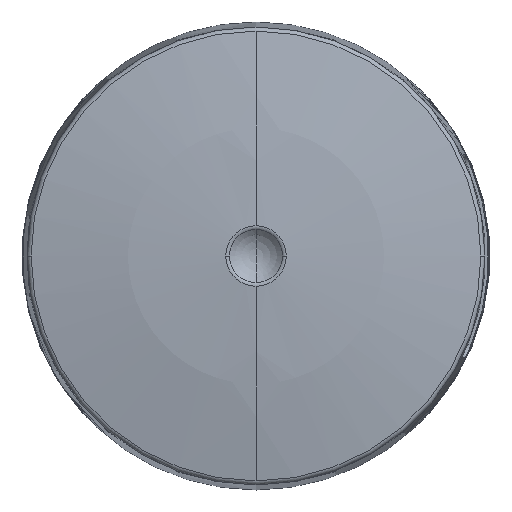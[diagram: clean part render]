
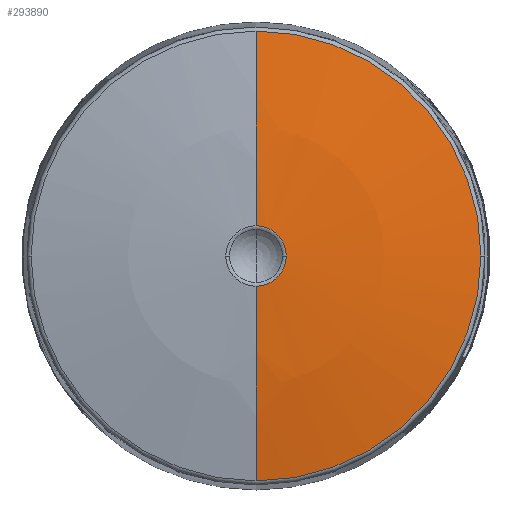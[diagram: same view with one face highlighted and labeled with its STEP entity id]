
A CAD part, left-side view. The second image highlights one B-rep face of the part: STEP entity #293890.
In plain terms, the highlighted spherical face has radius 45.951 mm.
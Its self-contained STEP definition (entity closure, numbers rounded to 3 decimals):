
#293430=CARTESIAN_POINT('',(82.898,47.8,0.))
;
#293440=DIRECTION('',(1.,0.,0.));
#293450=DIRECTION('',(0.,0.,1.));
#293460=AXIS2_PLACEMENT_3D('',#293430,#293440,#293450);
#293470=SPHERICAL_SURFACE('',#293460,45.951);
#293480=CARTESIAN_POINT('',(82.898,47.8,0.))
;
#293490=DIRECTION('',(0.,-1.,0.));
#293500=DIRECTION('',(-1.,0.,0.));
#293510=AXIS2_PLACEMENT_3D('',#293480,#293490,#293500);
#293520=CIRCLE('',#293510,45.951);
#293530=CARTESIAN_POINT('',(37.814,47.8,8.89));
#293540=VERTEX_POINT('',#293530);
#293550=CARTESIAN_POINT('',(36.962,47.8,1.194));
#293560=VERTEX_POINT('',#293550);
#293570=EDGE_CURVE('',#293540,#293560,#293520,.T.);
#293580=ORIENTED_EDGE('',*,*,#293570,.F.);
#293590=CARTESIAN_POINT('',(36.962,47.8,0.))
;
#293600=DIRECTION('',(1.,0.,0.));
#293610=DIRECTION('',(0.,-1.,0.));
#293620=AXIS2_PLACEMENT_3D('',#293590,#293600,#293610);
#293630=CIRCLE('',#293620,1.194);
#293640=CARTESIAN_POINT('',(36.962,48.994,
0.));
#293650=VERTEX_POINT('',#293640);
#293660=EDGE_CURVE('',#293650,#293560,#293630,.T.);
#293670=ORIENTED_EDGE('',*,*,#293660,.T.);
#293680=CARTESIAN_POINT('',(36.962,47.8,-1.194));
#293690=VERTEX_POINT('',#293680);
#293700=EDGE_CURVE('',#293690,#293650,#293630,.T.);
#293710=ORIENTED_EDGE('',*,*,#293700,.T.);
#293720=CARTESIAN_POINT('',(37.814,47.8,-8.89));
#293730=VERTEX_POINT('',#293720);
#293740=EDGE_CURVE('',#293690,#293730,#293520,.T.);
#293750=ORIENTED_EDGE('',*,*,#293740,.F.);
#293760=CARTESIAN_POINT('',(37.814,47.8,0.))
;
#293770=DIRECTION('',(1.,0.,0.));
#293780=DIRECTION('',(0.,-1.,0.));
#293790=AXIS2_PLACEMENT_3D('',#293760,#293770,#293780);
#293800=CIRCLE('',#293790,8.89);
#293810=CARTESIAN_POINT('',(37.814,56.69,
0.));
#293820=VERTEX_POINT('',#293810);
#293830=EDGE_CURVE('',#293730,#293820,#293800,.T.);
#293840=ORIENTED_EDGE('',*,*,#293830,.F.);
#293850=EDGE_CURVE('',#293820,#293540,#293800,.T.);
#293860=ORIENTED_EDGE('',*,*,#293850,.F.);
#293870=EDGE_LOOP('',(#293860,#293840,#293750,#293710,#293670,#293580));
#293880=FACE_OUTER_BOUND('',#293870,.T.);
#293890=ADVANCED_FACE('',(#293880),#293470,.T.);
